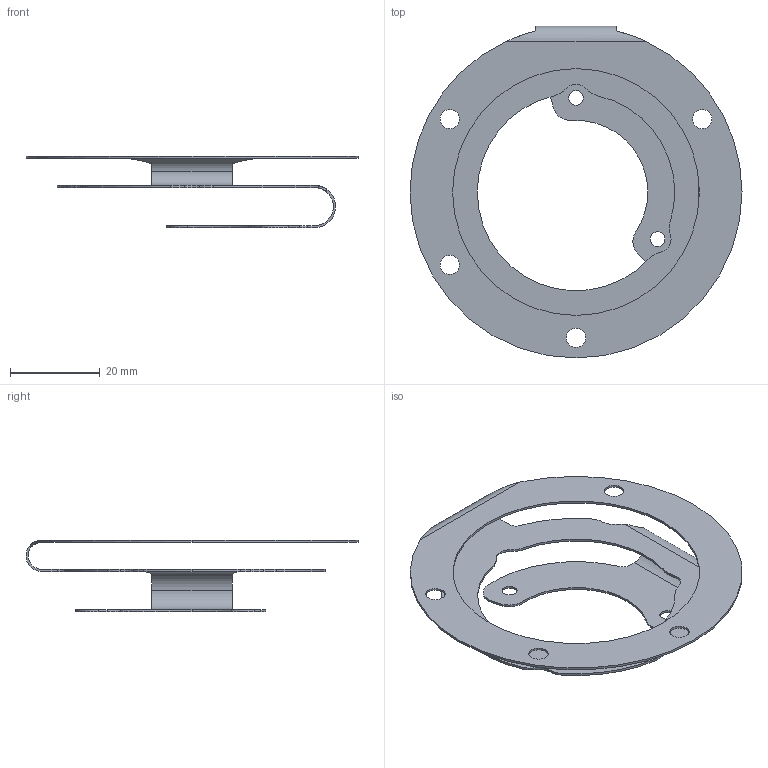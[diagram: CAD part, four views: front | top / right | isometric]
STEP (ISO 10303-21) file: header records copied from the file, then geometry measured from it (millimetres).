
FILE_DESCRIPTION (( 'STEP AP214' ), '1' );
FILE_NAME ('8.0010.40L0.0000.STEP', '2008-10-23T07:51:44', ( 'admin' ), ( 'Fritz Kübler GmbH' ), 'SwSTEP 2.0', 'SolidWorks 2008', '' );
FILE_SCHEMA (( 'AUTOMOTIVE_DESIGN' ));
Length unit declared in the file: millimetre
Products named in the file (1): 8.0010.40L0.0000
Bounding box: 74 x 74 x 16 mm (x, y, z)
Volume: 2049.5 mm3; surface area: 8656.2 mm2
Topology: 1 solids, 1 shells, 81 faces, 237 edges, 158 vertices
Faces by surface type: cylinder 69, plane 12
Entity records: 2880 total; most frequent: CARTESIAN_POINT 567, DIRECTION 519, ORIENTED_EDGE 474, EDGE_CURVE 237, AXIS2_PLACEMENT_3D 214, VERTEX_POINT 158, CIRCLE 132, EDGE_LOOP 97
